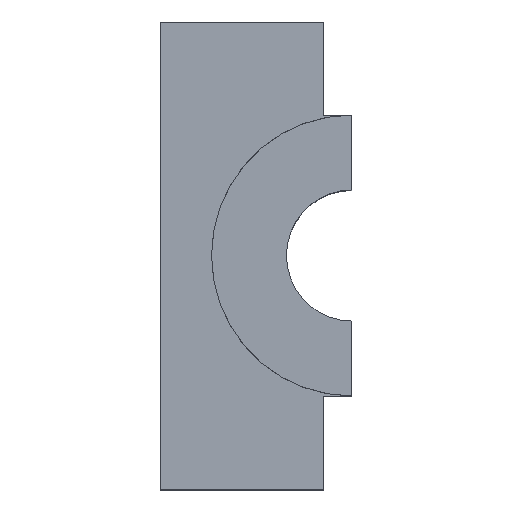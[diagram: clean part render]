
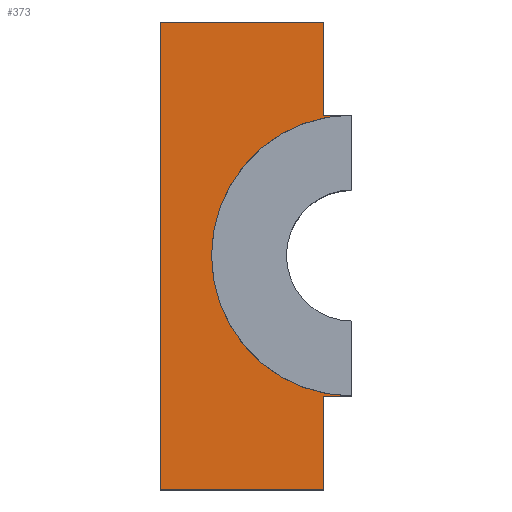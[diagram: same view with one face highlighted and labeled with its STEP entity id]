
A CAD part, top view. The second image highlights one B-rep face of the part: STEP entity #373.
In plain terms, the highlighted planar face has unit normal (0, 0, 1).
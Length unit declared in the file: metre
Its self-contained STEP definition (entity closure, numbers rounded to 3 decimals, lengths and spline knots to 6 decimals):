
#36=CIRCLE('',#512,0.00015);
#82=ORIENTED_EDGE('',*,*,#172,.F.);
#83=ORIENTED_EDGE('',*,*,#173,.T.);
#84=ORIENTED_EDGE('',*,*,#174,.F.);
#85=ORIENTED_EDGE('',*,*,#157,.F.);
#86=ORIENTED_EDGE('',*,*,#158,.F.);
#87=ORIENTED_EDGE('',*,*,#171,.F.);
#88=ORIENTED_EDGE('',*,*,#147,.F.);
#89=ORIENTED_EDGE('',*,*,#153,.F.);
#90=ORIENTED_EDGE('',*,*,#175,.T.);
#91=ORIENTED_EDGE('',*,*,#176,.T.);
#147=EDGE_CURVE('',#197,#198,#227,.T.);
#153=EDGE_CURVE('',#202,#197,#233,.T.);
#157=EDGE_CURVE('',#206,#204,#237,.T.);
#158=EDGE_CURVE('',#207,#206,#238,.T.);
#171=EDGE_CURVE('',#198,#207,#250,.T.);
#172=EDGE_CURVE('',#215,#216,#36,.T.);
#173=EDGE_CURVE('',#215,#217,#251,.T.);
#174=EDGE_CURVE('',#204,#217,#252,.T.);
#175=EDGE_CURVE('',#202,#218,#253,.T.);
#176=EDGE_CURVE('',#218,#216,#254,.T.);
#197=VERTEX_POINT('',#644);
#198=VERTEX_POINT('',#645);
#202=VERTEX_POINT('',#655);
#204=VERTEX_POINT('',#660);
#206=VERTEX_POINT('',#664);
#207=VERTEX_POINT('',#668);
#215=VERTEX_POINT('',#694);
#216=VERTEX_POINT('',#695);
#217=VERTEX_POINT('',#697);
#218=VERTEX_POINT('',#700);
#227=LINE('',#643,#269);
#233=LINE('',#656,#275);
#237=LINE('',#665,#279);
#238=LINE('',#667,#280);
#250=LINE('',#691,#292);
#251=LINE('',#696,#293);
#252=LINE('',#698,#294);
#253=LINE('',#699,#295);
#254=LINE('',#701,#296);
#269=VECTOR('',#543,1.);
#275=VECTOR('',#551,1.);
#279=VECTOR('',#557,1.);
#280=VECTOR('',#560,1.);
#292=VECTOR('',#580,1.);
#293=VECTOR('',#585,1.);
#294=VECTOR('',#586,1.);
#295=VECTOR('',#587,1.);
#296=VECTOR('',#588,1.);
#316=EDGE_LOOP('',(#82,#83,#84,#85,#86,#87,#88,#89,#90,#91));
#336=FACE_BOUND('',#316,.T.);
#356=PLANE('',#511);
#373=ADVANCED_FACE('',(#336),#356,.T.);
#511=AXIS2_PLACEMENT_3D('',#692,#581,#582);
#512=AXIS2_PLACEMENT_3D('',#693,#583,#584);
#543=DIRECTION('',(-1.,0.,0.));
#551=DIRECTION('',(0.,-1.,0.));
#557=DIRECTION('',(0.,-1.,0.));
#560=DIRECTION('',(1.,0.,0.));
#580=DIRECTION('',(0.,1.,0.));
#581=DIRECTION('',(0.,0.,1.));
#582=DIRECTION('',(-1.,0.,0.));
#583=DIRECTION('',(0.,0.,1.));
#584=DIRECTION('',(-1.,0.,0.));
#585=DIRECTION('',(0.,1.,0.));
#586=DIRECTION('',(1.,0.,0.));
#587=DIRECTION('',(1.,0.,0.));
#588=DIRECTION('',(0.,1.,0.));
#643=CARTESIAN_POINT('',(-0.111963,-0.044324,0.00951));
#644=CARTESIAN_POINT('',(-0.111613,-0.044324,0.00951));
#645=CARTESIAN_POINT('',(-0.111963,-0.044324,0.00951));
#655=CARTESIAN_POINT('',(-0.111613,-0.044124,0.00951));
#656=CARTESIAN_POINT('',(-0.111613,-0.043324,0.00951));
#660=CARTESIAN_POINT('',(-0.111613,-0.043524,0.00951));
#664=CARTESIAN_POINT('',(-0.111613,-0.043324,0.00951));
#665=CARTESIAN_POINT('',(-0.111613,-0.043324,0.00951));
#667=CARTESIAN_POINT('',(-0.111963,-0.043324,0.00951));
#668=CARTESIAN_POINT('',(-0.111963,-0.043324,0.00951));
#691=CARTESIAN_POINT('',(-0.111963,-0.044124,0.00951));
#692=CARTESIAN_POINT('',(-0.111963,-0.044124,0.00951));
#693=CARTESIAN_POINT('',(-0.111553,-0.043824,0.00951));
#694=CARTESIAN_POINT('',(-0.111563,-0.043674,0.00951));
#695=CARTESIAN_POINT('',(-0.111563,-0.043974,0.00951));
#696=CARTESIAN_POINT('',(-0.111563,-0.044124,0.00951));
#697=CARTESIAN_POINT('',(-0.111563,-0.043524,0.00951));
#698=CARTESIAN_POINT('',(-0.111963,-0.043524,0.00951));
#699=CARTESIAN_POINT('',(-0.111963,-0.044124,0.00951));
#700=CARTESIAN_POINT('',(-0.111563,-0.044124,0.00951));
#701=CARTESIAN_POINT('',(-0.111563,-0.044124,0.00951));
